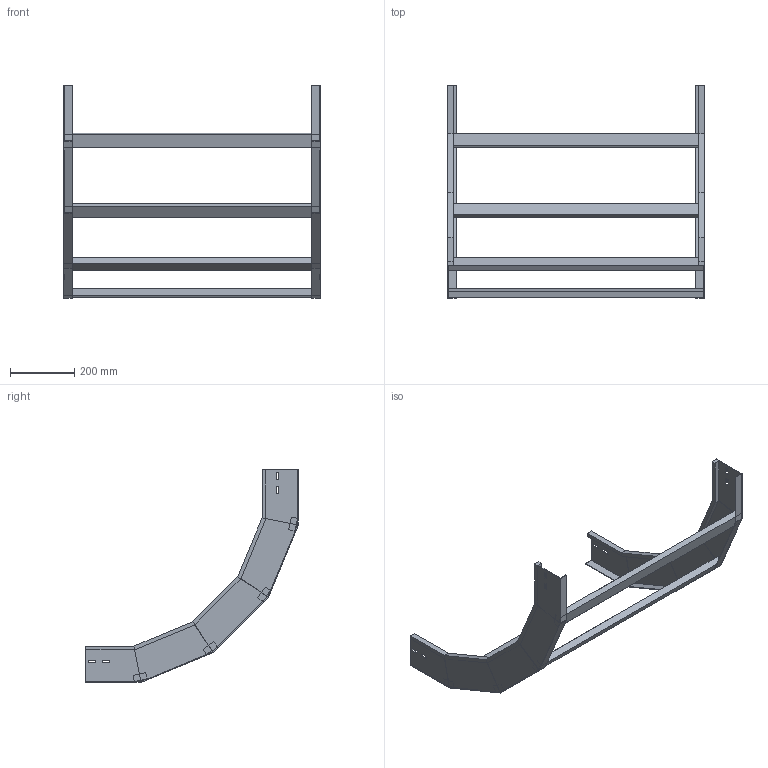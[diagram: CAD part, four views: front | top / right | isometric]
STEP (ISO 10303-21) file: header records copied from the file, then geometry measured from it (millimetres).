
FILE_DESCRIPTION (( 'STEP AP214' ), '1' );
FILE_NAME ('A2X30B5J800XX.step', '2025-03-20T10:22:19', ( '' ), ( '' ), 'SwSTEP 2.0', 'SolidWorks 2023', '' );
FILE_SCHEMA (( 'AUTOMOTIVE_DESIGN' ));
Length unit declared in the file: millimetre
Products named in the file (3): LONGH.SALITA_90°_H112.5_R500; TRAVERSINO_800; A2X30B5J800XX
Assembly tree (6 placements, depth 2):
  A2X30B5J800XX
    LONGH.SALITA_90°_H112.5_R500  x2
    TRAVERSINO_800  x4
Bounding box: 800 x 661.62 x 661.62 mm (x, y, z)
Volume: 3473708.4 mm3; surface area: 1007791.7 mm2
Topology: 6 solids, 6 shells, 140 faces, 320 edges, 192 vertices
Faces by surface type: plane 140
Entity records: 1872 total; most frequent: CARTESIAN_POINT 309, ORIENTED_EDGE 296, DIRECTION 294, VECTOR 148, LINE 148, EDGE_CURVE 148, VERTEX_POINT 88, AXIS2_PLACEMENT_3D 73
